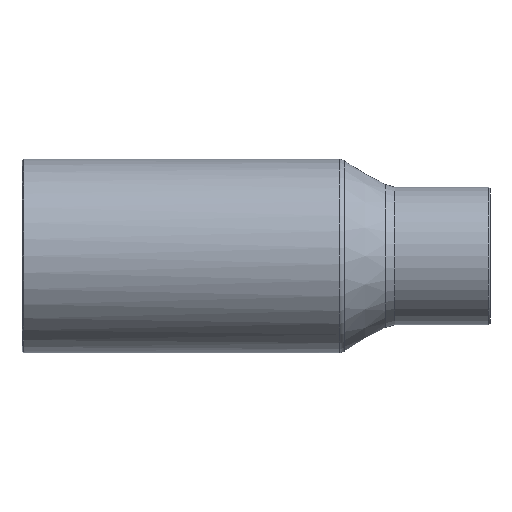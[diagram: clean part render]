
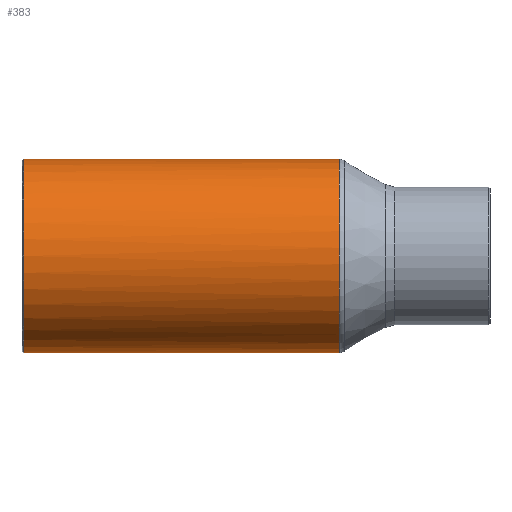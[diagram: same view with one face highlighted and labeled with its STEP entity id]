
A CAD part, front view. The second image highlights one B-rep face of the part: STEP entity #383.
In plain terms, the highlighted cylindrical face has radius 10.9 mm (diameter 21.8 mm), a full revolution.
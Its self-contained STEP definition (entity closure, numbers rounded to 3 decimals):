
#121=CARTESIAN_POINT('',(0.,0.0,-10.9));
#122=VERTEX_POINT('',#121);
#123=CARTESIAN_POINT('',(0.,0.0,10.9));
#124=VERTEX_POINT('',#123);
#309=CARTESIAN_POINT('',(-24.4,10.9,0.));
#310=VERTEX_POINT('',#309);
#311=CARTESIAN_POINT('',(-24.4,0.0,0.0));
#312=DIRECTION('',(-1.0,0.0,0.0));
#313=DIRECTION('',(0.0,-1.0,0.0));
#314=AXIS2_PLACEMENT_3D('',#311,#312,#313);
#315=CIRCLE('',#314,10.9);
#316=EDGE_CURVE('',#310,#310,#315,.T.);
#341=CARTESIAN_POINT('',(1.7,0.0,0.0));
#342=DIRECTION('',(1.0,0.0,0.0));
#343=DIRECTION('',(0.0,1.0,0.0));
#344=AXIS2_PLACEMENT_3D('',#341,#342,#343);
#345=CYLINDRICAL_SURFACE('',#344,10.9);
#346=CARTESIAN_POINT('',(11.04,8.657,6.623));
#347=VERTEX_POINT('',#346);
#348=CARTESIAN_POINT('',(11.04,8.657,-6.623));
#349=VERTEX_POINT('',#348);
#350=CARTESIAN_POINT('',(11.04,0.0,0.0));
#351=DIRECTION('',(1.0,0.0,0.0));
#352=DIRECTION('',(0.0,-1.0,0.0));
#353=AXIS2_PLACEMENT_3D('',#350,#351,#352);
#354=CIRCLE('',#353,10.9);
#355=EDGE_CURVE('',#347,#349,#354,.T.);
#356=ORIENTED_EDGE('',*,*,#355,.F.);
#357=CARTESIAN_POINT('',(0.0,0.0,0.0));
#358=DIRECTION('',(-0.617,0.787,0.0));
#359=DIRECTION('',(0.787,0.617,0.0));
#360=AXIS2_PLACEMENT_3D('',#357,#358,#359);
#361=ELLIPSE('',#360,17.664,10.9);
#362=EDGE_CURVE('',#124,#347,#361,.T.);
#363=ORIENTED_EDGE('',*,*,#362,.F.);
#364=CARTESIAN_POINT('',(0.0,0.0,0.0));
#365=DIRECTION('',(0.617,0.787,0.0));
#366=DIRECTION('',(-0.787,0.617,0.0));
#367=AXIS2_PLACEMENT_3D('',#364,#365,#366);
#368=ELLIPSE('',#367,17.664,10.9);
#369=EDGE_CURVE('',#122,#124,#368,.T.);
#370=ORIENTED_EDGE('',*,*,#369,.F.);
#371=CARTESIAN_POINT('',(0.0,0.0,0.0));
#372=DIRECTION('',(-0.617,0.787,0.0));
#373=DIRECTION('',(0.787,0.617,0.0));
#374=AXIS2_PLACEMENT_3D('',#371,#372,#373);
#375=ELLIPSE('',#374,17.664,10.9);
#376=EDGE_CURVE('',#349,#122,#375,.T.);
#377=ORIENTED_EDGE('',*,*,#376,.F.);
#378=EDGE_LOOP('',(#356,#363,#370,#377));
#379=FACE_OUTER_BOUND('',#378,.T.);
#380=ORIENTED_EDGE('',*,*,#316,.F.);
#381=EDGE_LOOP('',(#380));
#382=FACE_BOUND('',#381,.T.);
#383=ADVANCED_FACE('',(#379,#382),#345,.T.);
